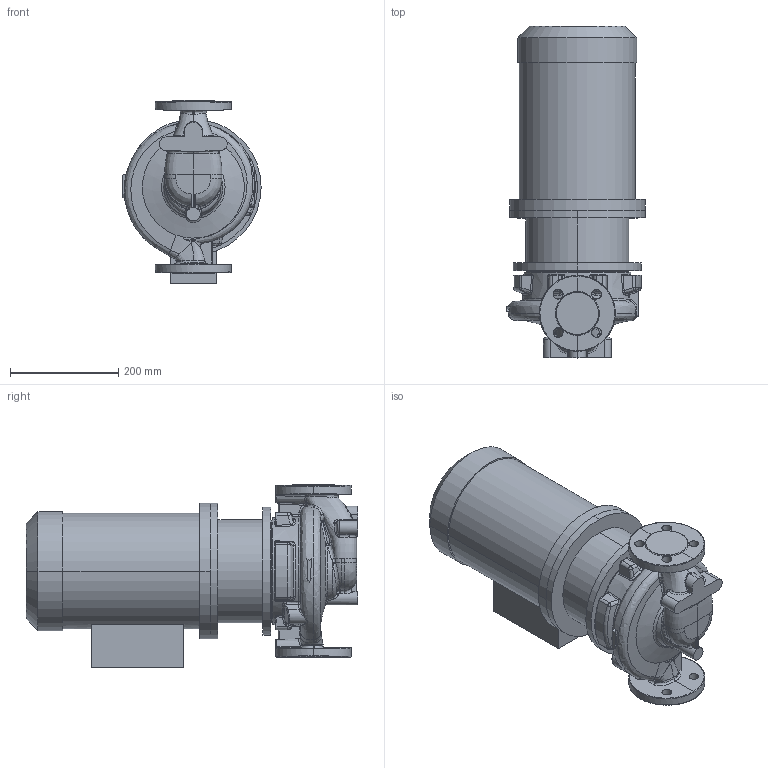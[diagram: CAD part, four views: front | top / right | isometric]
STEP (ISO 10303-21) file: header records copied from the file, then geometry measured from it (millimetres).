
FILE_DESCRIPTION (( 'STEP AP214' ), '1' );
FILE_NAME ('KRL 32-160-4-4,0.STEP', '2026-03-13T06:56:59', ( '' ), ( '' ), 'SwSTEP 2.0', 'SolidWorks 2016', '' );
FILE_SCHEMA (( 'AUTOMOTIVE_DESIGN' ));
Length unit declared in the file: millimetre
Products named in the file (1): KRL 32-160-4-4,0
Bounding box: 255 x 612.3 x 338 mm (x, y, z)
Volume: 22927834.3 mm3; surface area: 932367.6 mm2
Topology: 4 solids, 4 shells, 630 faces, 1530 edges, 907 vertices
Faces by surface type: bspline 312, cylinder 116, plane 102, cone 36, torus 35, sphere 29
Entity records: 73362 total; most frequent: CARTESIAN_POINT 54461, ORIENTED_EDGE 3018, DIRECTION 1766, EDGE_CURVE 1509, VERTEX_POINT 907, AXIS2_PLACEMENT_3D 769, B_SPLINE_CURVE_WITH_KNOTS 705, EDGE_LOOP 666
